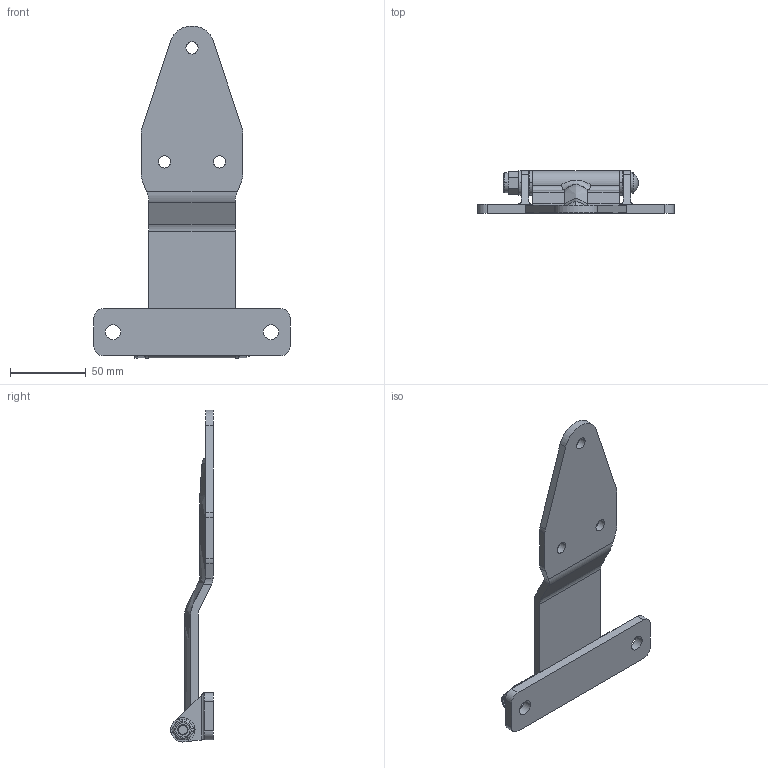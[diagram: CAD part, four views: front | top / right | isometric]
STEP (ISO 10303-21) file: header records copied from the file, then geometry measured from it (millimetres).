
FILE_DESCRIPTION (( 'STEP AP203' ), '1' );
FILE_NAME ('B24 KH-1281.STEP', '2012-11-23T03:33:18', ( 'KJ27' ), ( 'KONGJIN' ), 'SwSTEP 2.0', 'SolidWorks 2011', '' );
FILE_SCHEMA (( 'CONFIG_CONTROL_DESIGN' ));
Length unit declared in the file: millimetre
Products named in the file (7): 諦凜8; ST か濰離 葬橫 HINGE 醞2-03; ST か濰離 葬橫 HINGE 醞2-01; ST か濰離 葬橫 HINGE 醞2-02; B24 KH-1281; Plain Washer Normal Grade A_ISO_Washer ISO 7089 - 8; Torque nut 02_ISO_ISO 7041-M8-N
Assembly tree (7 placements, depth 2):
  B24 KH-1281
    Torque nut 02_ISO_ISO 7041-M8-N
    諦凜8  x2
    Plain Washer Normal Grade A_ISO_Washer ISO 7089 - 8
    ST か濰離 葬橫 HINGE 醞2-03
    ST か濰離 葬橫 HINGE 醞2-02
    ST か濰離 葬橫 HINGE 醞2-01
Bounding box: 129 x 28 x 218.45 mm (x, y, z)
Volume: 105306.2 mm3; surface area: 46014.1 mm2
Topology: 7 solids, 7 shells, 141 faces, 353 edges, 226 vertices
Faces by surface type: cylinder 67, plane 49, cone 17, bspline 6, torus 2
Entity records: 8469 total; most frequent: CARTESIAN_POINT 4489, ORIENTED_EDGE 678, DIRECTION 671, EDGE_CURVE 339, AXIS2_PLACEMENT_3D 264, VERTEX_POINT 218, EDGE_LOOP 159, VECTOR 143
